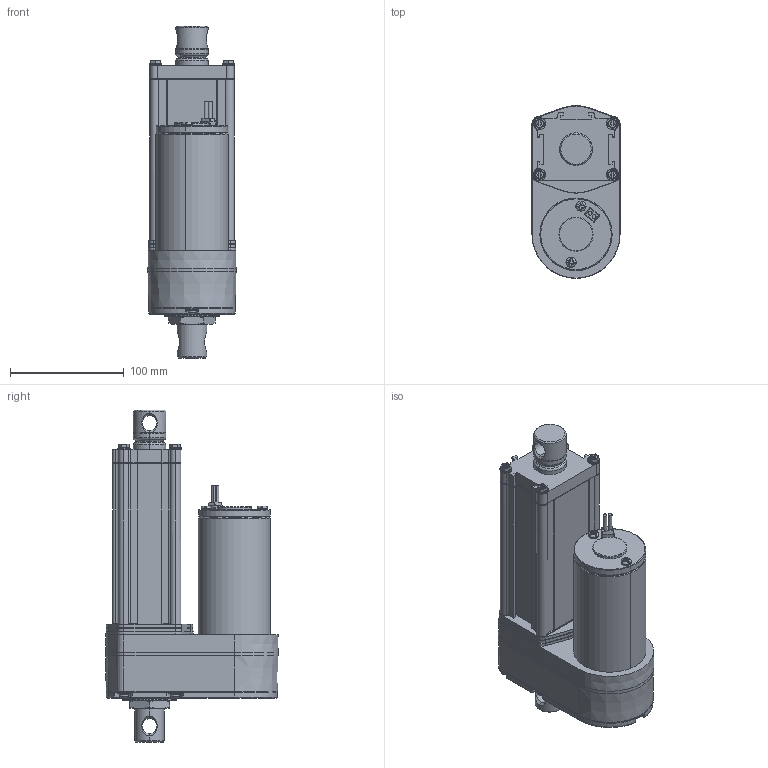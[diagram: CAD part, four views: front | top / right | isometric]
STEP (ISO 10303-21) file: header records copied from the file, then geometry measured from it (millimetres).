
FILE_DESCRIPTION (( 'STEP AP203' ), '1' );
FILE_NAME ('ID12-A-100-IP69K.STEP', '2022-10-19T08:56:29', ( '' ), ( '' ), 'SwSTEP 2.0', 'SolidWorks 2020', '' );
FILE_SCHEMA (( 'CONFIG_CONTROL_DESIGN' ));
Length unit declared in the file: millimetre
Products named in the file (3): ID12-A-100-IP69K; ID12-1; ID12-2
Assembly tree (2 placements, depth 2):
  ID12-A-100-IP69K
    ID12-1
    ID12-2
Bounding box: 77.3 x 151.8 x 291.5 mm (x, y, z)
Volume: 1540378.4 mm3; surface area: 191352.6 mm2
Topology: 3 solids, 29 shells, 1818 faces, 4441 edges, 2739 vertices
Faces by surface type: plane 956, cylinder 502, cone 128, torus 109, bspline 107, sphere 16
Entity records: 58941 total; most frequent: CARTESIAN_POINT 17675, ORIENTED_EDGE 8846, DIRECTION 8410, EDGE_CURVE 4423, AXIS2_PLACEMENT_3D 3158, VERTEX_POINT 2739, LINE 2094, VECTOR 2094
